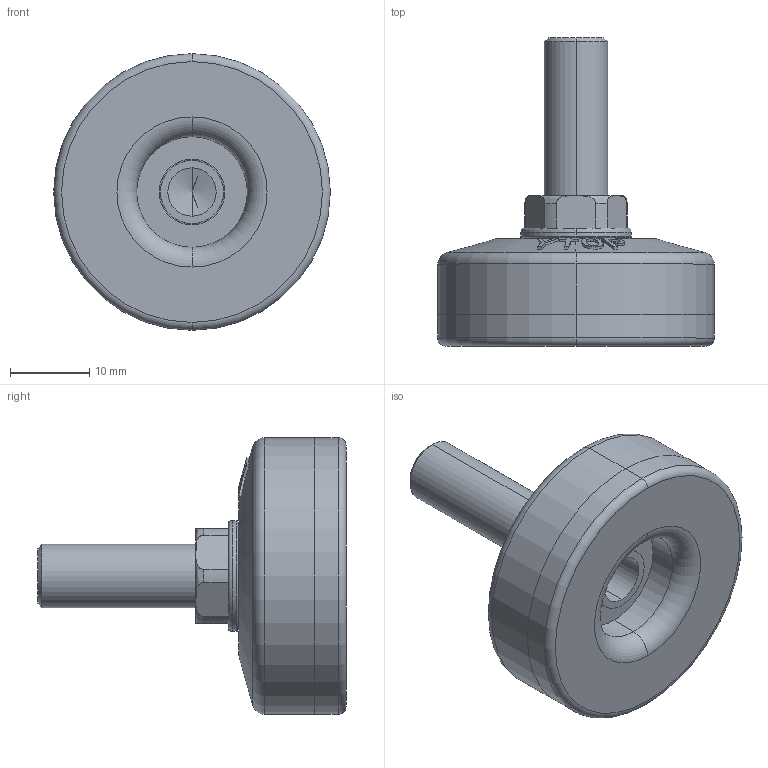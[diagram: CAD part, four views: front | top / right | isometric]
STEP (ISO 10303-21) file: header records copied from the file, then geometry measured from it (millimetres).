
FILE_DESCRIPTION (( 'STEP AP203' ), '1' );
FILE_NAME ('R-35-820-TPU.STEP', '2020-09-11T02:20:52', ( '' ), ( '' ), 'SwSTEP 2.0', 'SolidWorks 2016', '' );
FILE_SCHEMA (( 'CONFIG_CONTROL_DESIGN' ));
Length unit declared in the file: millimetre
Products named in the file (4): 穩諉蹟裝M8炵蹈_M8X20; S倰覃誹褐_35菁菜; S倰覃誹褐_35裔赽; R-35-820-TPU
Assembly tree (3 placements, depth 2):
  R-35-820-TPU
    S倰覃誹褐_35菁菜
    S倰覃誹褐_35裔赽
    穩諉蹟裝M8炵蹈_M8X20
Bounding box: 35 x 39 x 35 mm (x, y, z)
Volume: 8942.9 mm3; surface area: 8887.4 mm2
Topology: 3 solids, 3 shells, 128 faces, 295 edges, 185 vertices
Faces by surface type: bspline 48, cylinder 32, plane 20, cone 16, torus 12
Entity records: 8345 total; most frequent: CARTESIAN_POINT 5422, ORIENTED_EDGE 586, DIRECTION 399, EDGE_CURVE 293, VERTEX_POINT 185, AXIS2_PLACEMENT_3D 172, B_SPLINE_CURVE_WITH_KNOTS 148, EDGE_LOOP 146
